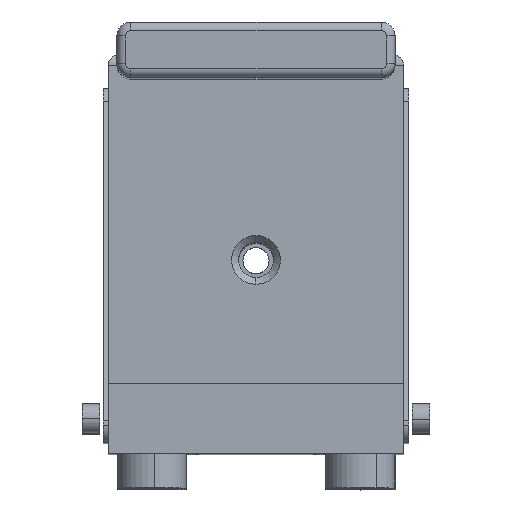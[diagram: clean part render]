
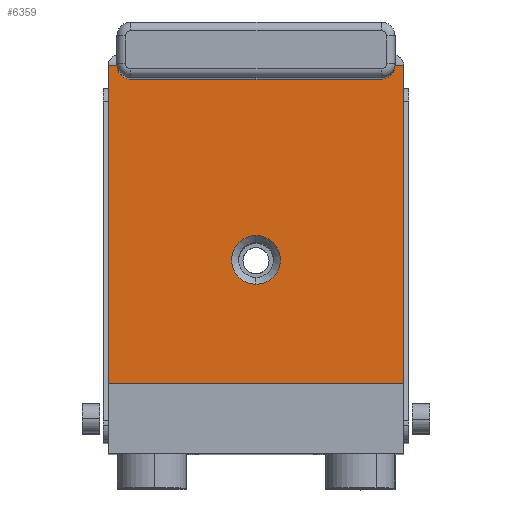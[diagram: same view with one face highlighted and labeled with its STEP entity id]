
A CAD part, top view. The second image highlights one B-rep face of the part: STEP entity #6359.
In plain terms, the highlighted planar face has unit normal (0, 0, 1).
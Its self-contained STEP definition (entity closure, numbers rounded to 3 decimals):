
#211 = CARTESIAN_POINT ( 'NONE',  ( 82.5, 115., -255. ) ) ;
#258 = AXIS2_PLACEMENT_3D ( 'NONE', #211, #1493, #13917 ) ;
#334 = FACE_BOUND ( 'NONE', #12881, .T. ) ;
#613 = VERTEX_POINT ( 'NONE', #10636 ) ;
#1073 = LINE ( 'NONE', #16296, #11933 ) ;
#1241 = CARTESIAN_POINT ( 'NONE',  ( 40., 49., -255. ) ) ;
#1493 = DIRECTION ( 'NONE',  ( 0., 0., -1. ) ) ;
#1649 = EDGE_CURVE ( 'NONE', #613, #16791, #10897, .T. ) ;
#1722 = VERTEX_POINT ( 'NONE', #10239 ) ;
#2328 = LINE ( 'NONE', #8983, #2569 ) ;
#2569 = VECTOR ( 'NONE', #8790, 1000. ) ;
#2896 = EDGE_CURVE ( 'NONE', #8314, #613, #2328, .T. ) ;
#3107 = LINE ( 'NONE', #5927, #15282 ) ;
#3255 = ORIENTED_EDGE ( 'NONE', *, *, #4528, .T. ) ;
#4528 = EDGE_CURVE ( 'NONE', #6267, #6734, #9490, .T. ) ;
#4898 = EDGE_CURVE ( 'NONE', #1722, #8314, #3107, .T. ) ;
#4942 = CARTESIAN_POINT ( 'NONE',  ( 82.5, 20., -255. ) ) ;
#5369 = EDGE_CURVE ( 'NONE', #1722, #16791, #1073, .T. ) ;
#5605 = CARTESIAN_POINT ( 'NONE',  ( -2.5, 112., -255. ) ) ;
#5869 = DIRECTION ( 'NONE',  ( -1., 0., 0. ) ) ;
#5927 = CARTESIAN_POINT ( 'NONE',  ( -2.5, 112., -255. ) ) ;
#6267 = VERTEX_POINT ( 'NONE', #1241 ) ;
#6359 = ADVANCED_FACE ( 'NONE', ( #334, #7147 ), #11808, .F. ) ;
#6734 = VERTEX_POINT ( 'NONE', #13572 ) ;
#7147 = FACE_OUTER_BOUND ( 'NONE', #14833, .T. ) ;
#7301 = CIRCLE ( 'NONE', #8947, 7. ) ;
#7692 = ORIENTED_EDGE ( 'NONE', *, *, #2896, .T. ) ;
#7881 = DIRECTION ( 'NONE',  ( 0., 0., -1. ) ) ;
#8278 = CARTESIAN_POINT ( 'NONE',  ( 82.5, 20., -255. ) ) ;
#8314 = VERTEX_POINT ( 'NONE', #5605 ) ;
#8544 = ORIENTED_EDGE ( 'NONE', *, *, #1649, .T. ) ;
#8790 = DIRECTION ( 'NONE',  ( 0., -1., 0. ) ) ;
#8794 = ORIENTED_EDGE ( 'NONE', *, *, #4898, .T. ) ;
#8947 = AXIS2_PLACEMENT_3D ( 'NONE', #16403, #7881, #17780 ) ;
#8983 = CARTESIAN_POINT ( 'NONE',  ( -2.5, 115., -255. ) ) ;
#9096 = VECTOR ( 'NONE', #13364, 1000. ) ;
#9490 = CIRCLE ( 'NONE', #12471, 7. ) ;
#10239 = CARTESIAN_POINT ( 'NONE',  ( 82.5, 112., -255. ) ) ;
#10636 = CARTESIAN_POINT ( 'NONE',  ( -2.5, 20., -255. ) ) ;
#10897 = LINE ( 'NONE', #8278, #9096 ) ;
#11044 = ORIENTED_EDGE ( 'NONE', *, *, #14814, .T. ) ;
#11808 = PLANE ( 'NONE',  #258 ) ;
#11933 = VECTOR ( 'NONE', #16254, 1000. ) ;
#12378 = ORIENTED_EDGE ( 'NONE', *, *, #5369, .F. ) ;
#12471 = AXIS2_PLACEMENT_3D ( 'NONE', #16198, #16161, #16137 ) ;
#12881 = EDGE_LOOP ( 'NONE', ( #3255, #11044 ) ) ;
#13364 = DIRECTION ( 'NONE',  ( 1., 0., 0. ) ) ;
#13572 = CARTESIAN_POINT ( 'NONE',  ( 40., 63., -255. ) ) ;
#13917 = DIRECTION ( 'NONE',  ( -1., 0., 0. ) ) ;
#14814 = EDGE_CURVE ( 'NONE', #6734, #6267, #7301, .T. ) ;
#14833 = EDGE_LOOP ( 'NONE', ( #12378, #8794, #7692, #8544 ) ) ;
#15282 = VECTOR ( 'NONE', #5869, 1000. ) ;
#16137 = DIRECTION ( 'NONE',  ( -1., 0., 0. ) ) ;
#16161 = DIRECTION ( 'NONE',  ( 0., 0., -1. ) ) ;
#16198 = CARTESIAN_POINT ( 'NONE',  ( 40., 56., -255. ) ) ;
#16254 = DIRECTION ( 'NONE',  ( 0., -1., 0. ) ) ;
#16296 = CARTESIAN_POINT ( 'NONE',  ( 82.5, 115., -255. ) ) ;
#16403 = CARTESIAN_POINT ( 'NONE',  ( 40., 56., -255. ) ) ;
#16791 = VERTEX_POINT ( 'NONE', #4942 ) ;
#17780 = DIRECTION ( 'NONE',  ( -1., 0., 0. ) ) ;
